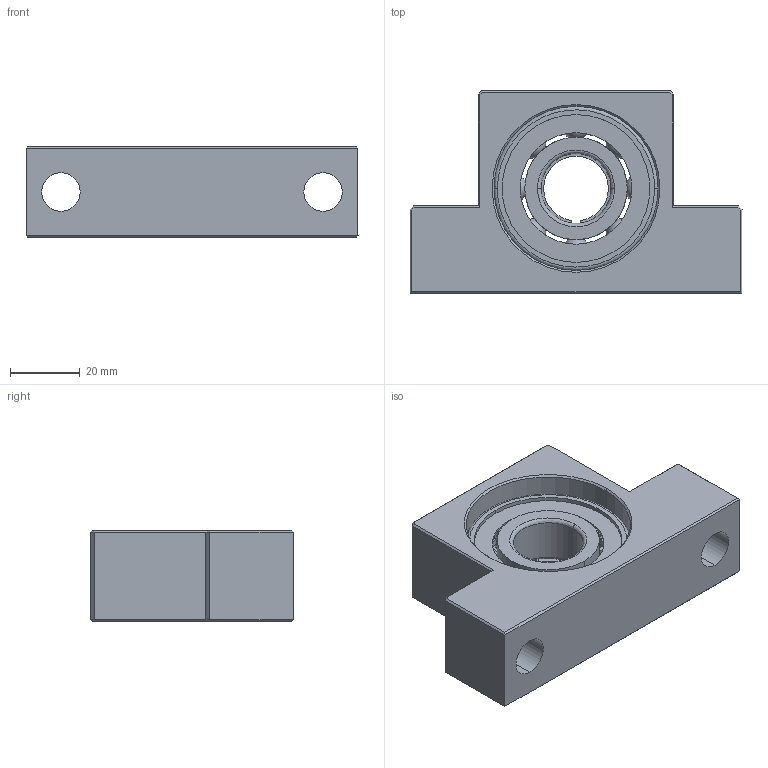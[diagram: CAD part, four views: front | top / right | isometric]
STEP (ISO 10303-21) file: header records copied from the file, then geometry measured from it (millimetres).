
FILE_DESCRIPTION (( 'STEP AP214' ), '1' );
FILE_NAME ('7.4036 EF20.STEP', '2026-03-06T08:06:20', ( '' ), ( '' ), 'SwSTEP 2.0', 'SolidWorks 2025', '' );
FILE_SCHEMA (( 'AUTOMOTIVE_DESIGN' ));
Length unit declared in the file: millimetre
Products named in the file (1): 7.4036 EF20
Bounding box: 95 x 58 x 26 mm (x, y, z)
Volume: 71952.4 mm3; surface area: 26368.2 mm2
Topology: 2 solids, 2 shells, 276 faces, 855 edges, 544 vertices
Faces by surface type: plane 100, sphere 80, bspline 49, cylinder 43, cone 4
Entity records: 15576 total; most frequent: CARTESIAN_POINT 6773, ORIENTED_EDGE 1614, DIRECTION 1236, EDGE_CURVE 807, VERTEX_POINT 528, AXIS2_PLACEMENT_3D 501, EDGE_LOOP 311, B_SPLINE_CURVE_WITH_KNOTS 280
